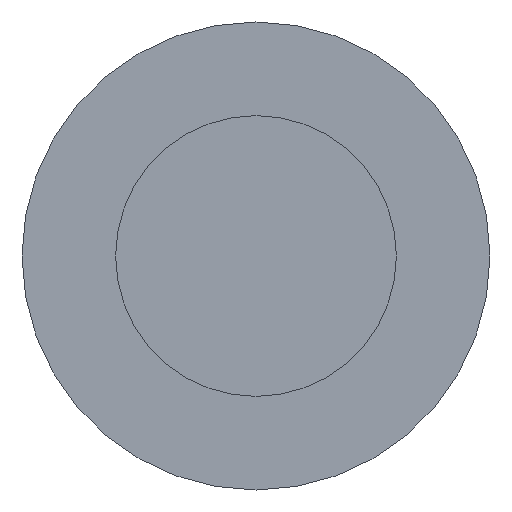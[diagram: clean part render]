
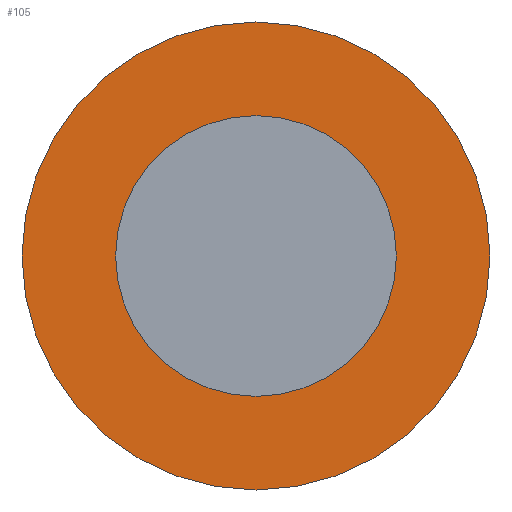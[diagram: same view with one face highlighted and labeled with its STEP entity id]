
A CAD part, front view. The second image highlights one B-rep face of the part: STEP entity #105.
In plain terms, the highlighted planar face has unit normal (0, -1, 0).
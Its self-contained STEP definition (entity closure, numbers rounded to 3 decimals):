
#22 = VERTEX_POINT('',#23);
#23 = CARTESIAN_POINT('',(65.6,84.7,-195.));
#32 = CYLINDRICAL_SURFACE('',#33,5.);
#33 = AXIS2_PLACEMENT_3D('',#34,#35,#36);
#34 = CARTESIAN_POINT('',(60.6,84.7,-195.));
#35 = DIRECTION('',(0.,-1.,-0.));
#36 = DIRECTION('',(1.,0.,0.));
#79 = EDGE_CURVE('',#22,#22,#80,.T.);
#80 = SURFACE_CURVE('',#81,(#86,#93),.PCURVE_S1.);
#81 = CIRCLE('',#82,5.);
#82 = AXIS2_PLACEMENT_3D('',#83,#84,#85);
#83 = CARTESIAN_POINT('',(60.6,84.7,-195.));
#84 = DIRECTION('',(-0.,1.,0.));
#85 = DIRECTION('',(1.,0.,0.));
#86 = PCURVE('',#32,#87);
#87 = DEFINITIONAL_REPRESENTATION('',(#88),#92);
#88 = LINE('',#89,#90);
#89 = CARTESIAN_POINT('',(-0.,0.));
#90 = VECTOR('',#91,1.);
#91 = DIRECTION('',(-1.,0.));
#92 = ( GEOMETRIC_REPRESENTATION_CONTEXT(2) 
PARAMETRIC_REPRESENTATION_CONTEXT() REPRESENTATION_CONTEXT('2D SPACE',''
  ) );
#93 = PCURVE('',#94,#99);
#94 = PLANE('',#95);
#95 = AXIS2_PLACEMENT_3D('',#96,#97,#98);
#96 = CARTESIAN_POINT('',(60.6,84.7,-195.));
#97 = DIRECTION('',(0.,1.,0.));
#98 = DIRECTION('',(0.,-0.,1.));
#99 = DEFINITIONAL_REPRESENTATION('',(#100),#104);
#100 = CIRCLE('',#101,5.);
#101 = AXIS2_PLACEMENT_2D('',#102,#103);
#102 = CARTESIAN_POINT('',(0.,0.));
#103 = DIRECTION('',(0.,1.));
#104 = ( GEOMETRIC_REPRESENTATION_CONTEXT(2) 
PARAMETRIC_REPRESENTATION_CONTEXT() REPRESENTATION_CONTEXT('2D SPACE',''
  ) );
#105 = ADVANCED_FACE('',(#106,#109),#94,.F.);
#106 = FACE_BOUND('',#107,.F.);
#107 = EDGE_LOOP('',(#108));
#108 = ORIENTED_EDGE('',*,*,#79,.T.);
#109 = FACE_BOUND('',#110,.F.);
#110 = EDGE_LOOP('',(#111));
#111 = ORIENTED_EDGE('',*,*,#112,.F.);
#112 = EDGE_CURVE('',#113,#113,#115,.T.);
#113 = VERTEX_POINT('',#114);
#114 = CARTESIAN_POINT('',(63.6,84.7,-195.));
#115 = SURFACE_CURVE('',#116,(#121,#128),.PCURVE_S1.);
#116 = CIRCLE('',#117,3.);
#117 = AXIS2_PLACEMENT_3D('',#118,#119,#120);
#118 = CARTESIAN_POINT('',(60.6,84.7,-195.));
#119 = DIRECTION('',(-0.,1.,0.));
#120 = DIRECTION('',(1.,0.,0.));
#121 = PCURVE('',#94,#122);
#122 = DEFINITIONAL_REPRESENTATION('',(#123),#127);
#123 = CIRCLE('',#124,3.);
#124 = AXIS2_PLACEMENT_2D('',#125,#126);
#125 = CARTESIAN_POINT('',(0.,0.));
#126 = DIRECTION('',(0.,1.));
#127 = ( GEOMETRIC_REPRESENTATION_CONTEXT(2) 
PARAMETRIC_REPRESENTATION_CONTEXT() REPRESENTATION_CONTEXT('2D SPACE',''
  ) );
#128 = PCURVE('',#129,#134);
#129 = CYLINDRICAL_SURFACE('',#130,3.);
#130 = AXIS2_PLACEMENT_3D('',#131,#132,#133);
#131 = CARTESIAN_POINT('',(60.6,68.7,-195.));
#132 = DIRECTION('',(0.,-1.,-0.));
#133 = DIRECTION('',(1.,0.,0.));
#134 = DEFINITIONAL_REPRESENTATION('',(#135),#139);
#135 = LINE('',#136,#137);
#136 = CARTESIAN_POINT('',(-0.,-16.));
#137 = VECTOR('',#138,1.);
#138 = DIRECTION('',(-1.,0.));
#139 = ( GEOMETRIC_REPRESENTATION_CONTEXT(2) 
PARAMETRIC_REPRESENTATION_CONTEXT() REPRESENTATION_CONTEXT('2D SPACE',''
  ) );
